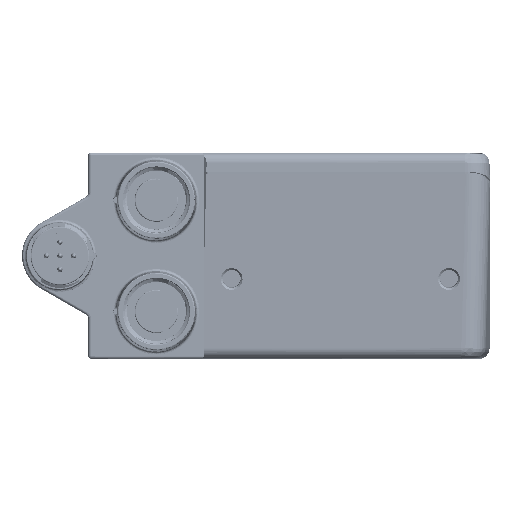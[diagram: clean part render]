
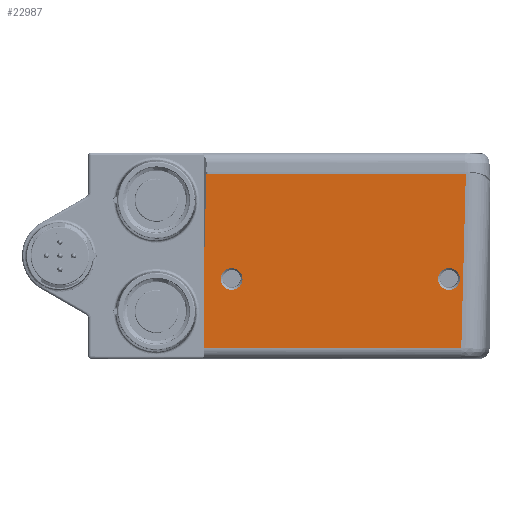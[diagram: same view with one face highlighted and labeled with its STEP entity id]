
A CAD part, front view. The second image highlights one B-rep face of the part: STEP entity #22987.
In plain terms, the highlighted planar face has unit normal (0, -1, -0.026).
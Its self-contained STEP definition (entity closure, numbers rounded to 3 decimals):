
#8752=LINE('',#201592,#15931);
#8781=LINE('',#201713,#15960);
#8782=LINE('',#201721,#15961);
#8783=LINE('',#201723,#15962);
#15931=VECTOR('',#123874,1.);
#15960=VECTOR('',#123949,1.);
#15961=VECTOR('',#123958,1.);
#15962=VECTOR('',#123959,1.);
#18907=FACE_BOUND('',#37855,.T.);
#18908=FACE_BOUND('',#37856,.T.);
#18909=FACE_BOUND('',#37857,.T.);
#22987=ADVANCED_FACE('',(#18907,#18908,#18909),#27363,.T.);
#27363=PLANE('',#107123);
#37855=EDGE_LOOP('',(#61130));
#37856=EDGE_LOOP('',(#61131));
#37857=EDGE_LOOP('',(#61132,#61133,#61134,#61135));
#61130=ORIENTED_EDGE('',*,*,#90897,.T.);
#61131=ORIENTED_EDGE('',*,*,#90898,.T.);
#61132=ORIENTED_EDGE('',*,*,#90895,.T.);
#61133=ORIENTED_EDGE('',*,*,#90849,.T.);
#61134=ORIENTED_EDGE('',*,*,#90899,.F.);
#61135=ORIENTED_EDGE('',*,*,#90900,.T.);
#77492=VERTEX_POINT('',#201591);
#77493=VERTEX_POINT('',#201593);
#77536=VERTEX_POINT('',#201714);
#77537=VERTEX_POINT('',#201718);
#77538=VERTEX_POINT('',#201720);
#77539=VERTEX_POINT('',#201722);
#90849=EDGE_CURVE('',#77493,#77492,#8752,.T.);
#90895=EDGE_CURVE('',#77536,#77493,#8781,.T.);
#90897=EDGE_CURVE('',#77537,#77537,#102009,.T.);
#90898=EDGE_CURVE('',#77538,#77538,#102010,.T.);
#90899=EDGE_CURVE('',#77539,#77492,#8782,.T.);
#90900=EDGE_CURVE('',#77539,#77536,#8783,.T.);
#102009=CIRCLE('',#107121,2.);
#102010=CIRCLE('',#107122,2.);
#107121=AXIS2_PLACEMENT_3D('',#201717,#123954,#123955);
#107122=AXIS2_PLACEMENT_3D('',#201719,#123956,#123957);
#107123=AXIS2_PLACEMENT_3D('',#201724,#123960,#123961);
#123874=DIRECTION('',(-1.,0.,0.));
#123949=DIRECTION('',(0.026,-0.026,0.999));
#123954=DIRECTION('',(0.,1.,0.026));
#123955=DIRECTION('',(0.,0.026,-1.));
#123956=DIRECTION('',(0.,1.,0.026));
#123957=DIRECTION('',(0.,0.026,-1.));
#123958=DIRECTION('',(0.026,-0.026,0.999));
#123959=DIRECTION('',(1.,0.,0.));
#123960=DIRECTION('',(0.,-1.,-0.026));
#123961=DIRECTION('',(0.,0.026,-1.));
#201591=CARTESIAN_POINT('',(-24.096,-49.694,34.));
#201592=CARTESIAN_POINT('',(43.854,-49.694,34.));
#201593=CARTESIAN_POINT('',(23.648,-49.694,34.));
#201713=CARTESIAN_POINT('',(23.628,-49.674,33.228));
#201714=CARTESIAN_POINT('',(22.817,-48.855,1.948));
#201717=CARTESIAN_POINT('',(20.554,-49.189,14.718));
#201718=CARTESIAN_POINT('',(20.554,-49.137,12.719));
#201719=CARTESIAN_POINT('',(-19.446,-49.189,14.718));
#201720=CARTESIAN_POINT('',(-19.446,-49.137,12.719));
#201721=CARTESIAN_POINT('',(-24.084,-49.706,34.469));
#201722=CARTESIAN_POINT('',(-24.936,-48.855,1.948));
#201723=CARTESIAN_POINT('',(-6.146,-48.855,1.948));
#201724=CARTESIAN_POINT('',(-6.146,-49.694,34.));
